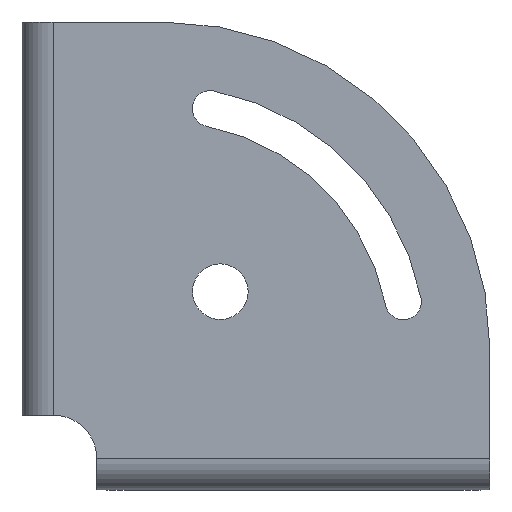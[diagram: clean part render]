
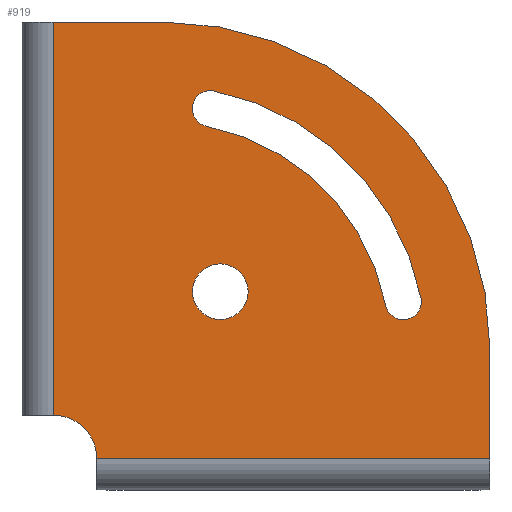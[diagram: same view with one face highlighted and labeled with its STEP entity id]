
A CAD part, front view. The second image highlights one B-rep face of the part: STEP entity #919.
In plain terms, the highlighted planar face has unit normal (0, -1, 0).
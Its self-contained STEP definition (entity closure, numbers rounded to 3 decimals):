
#14 = CIRCLE ( 'NONE', #794, 8. ) ;
#37 = EDGE_CURVE ( 'NONE', #355, #1103, #796, .T. ) ;
#38 = CIRCLE ( 'NONE', #1136, 41.7 ) ;
#39 = CARTESIAN_POINT ( 'NONE',  ( 33.307, -3., 30.607 ) ) ;
#40 = CARTESIAN_POINT ( 'NONE',  ( 70.072, -3., 29.424 ) ) ;
#50 = PLANE ( 'NONE',  #648 ) ;
#65 = VECTOR ( 'NONE', #508, 1000. ) ;
#70 = DIRECTION ( 'NONE',  ( -1., 0., 0. ) ) ;
#80 = DIRECTION ( 'NONE',  ( 0., -1., 0. ) ) ;
#96 = DIRECTION ( 'NONE',  ( 0., 1., 0. ) ) ;
#98 = CARTESIAN_POINT ( 'NONE',  ( 82.7, -3., 0. ) ) ;
#125 = DIRECTION ( 'NONE',  ( 0., 0., 1. ) ) ;
#148 = DIRECTION ( 'NONE',  ( 0., -1., 0. ) ) ;
#166 = CARTESIAN_POINT ( 'NONE',  ( 2.7, -3., 80. ) ) ;
#193 = VERTEX_POINT ( 'NONE', #40 ) ;
#208 = ORIENTED_EDGE ( 'NONE', *, *, #1285, .T. ) ;
#239 = CIRCLE ( 'NONE', #305, 5.1 ) ;
#250 = EDGE_CURVE ( 'NONE', #193, #1042, #978, .T. ) ;
#251 = CARTESIAN_POINT ( 'NONE',  ( 22.7, -3., 20. ) ) ;
#305 = AXIS2_PLACEMENT_3D ( 'NONE', #477, #1199, #585 ) ;
#309 = VERTEX_POINT ( 'NONE', #848 ) ;
#316 = VERTEX_POINT ( 'NONE', #540 ) ;
#329 = DIRECTION ( 'NONE',  ( 0., 1., 0. ) ) ;
#344 = LINE ( 'NONE', #1019, #65 ) ;
#349 = DIRECTION ( 'NONE',  ( 0., 0., -1. ) ) ;
#350 = VERTEX_POINT ( 'NONE', #166 ) ;
#355 = VERTEX_POINT ( 'NONE', #1120 ) ;
#359 = DIRECTION ( 'NONE',  ( 0., 0., 1. ) ) ;
#413 = VECTOR ( 'NONE', #349, 1000. ) ;
#442 = EDGE_CURVE ( 'NONE', #1075, #193, #671, .T. ) ;
#444 = CIRCLE ( 'NONE', #1044, 5.1 ) ;
#455 = ORIENTED_EDGE ( 'NONE', *, *, #724, .T. ) ;
#459 = FACE_OUTER_BOUND ( 'NONE', #590, .T. ) ;
#477 = CARTESIAN_POINT ( 'NONE',  ( 33.307, -3., 30.607 ) ) ;
#478 = ORIENTED_EDGE ( 'NONE', *, *, #442, .T. ) ;
#490 = CARTESIAN_POINT ( 'NONE',  ( 66.835, -3., 28.78 ) ) ;
#495 = ORIENTED_EDGE ( 'NONE', *, *, #747, .T. ) ;
#500 = FACE_BOUND ( 'NONE', #728, .T. ) ;
#501 = DIRECTION ( 'NONE',  ( 0., -1., 0. ) ) ;
#504 = CARTESIAN_POINT ( 'NONE',  ( 2.7, -3., 8. ) ) ;
#507 = ORIENTED_EDGE ( 'NONE', *, *, #37, .T. ) ;
#508 = DIRECTION ( 'NONE',  ( 1., 0., 0. ) ) ;
#540 = CARTESIAN_POINT ( 'NONE',  ( 22.7, -3., 80. ) ) ;
#545 = LINE ( 'NONE', #1015, #655 ) ;
#584 = CARTESIAN_POINT ( 'NONE',  ( 31.48, -3., 64.135 ) ) ;
#585 = DIRECTION ( 'NONE',  ( 0., 0., 1. ) ) ;
#590 = EDGE_LOOP ( 'NONE', ( #683, #1111, #805, #455, #495, #1266 ) ) ;
#594 = DIRECTION ( 'NONE',  ( 0., 0., 1. ) ) ;
#617 = CARTESIAN_POINT ( 'NONE',  ( 33.307, -3., 35.707 ) ) ;
#621 = AXIS2_PLACEMENT_3D ( 'NONE', #960, #329, #1062 ) ;
#622 = ORIENTED_EDGE ( 'NONE', *, *, #1089, .T. ) ;
#646 = ORIENTED_EDGE ( 'NONE', *, *, #1242, .T. ) ;
#648 = AXIS2_PLACEMENT_3D ( 'NONE', #789, #148, #895 ) ;
#649 = LINE ( 'NONE', #98, #1198 ) ;
#655 = VECTOR ( 'NONE', #70, 1000. ) ;
#671 = CIRCLE ( 'NONE', #1033, 48.3 ) ;
#682 = DIRECTION ( 'NONE',  ( 0., 0., 1. ) ) ;
#683 = ORIENTED_EDGE ( 'NONE', *, *, #958, .T. ) ;
#703 = VERTEX_POINT ( 'NONE', #504 ) ;
#719 = CARTESIAN_POINT ( 'NONE',  ( 22.7, -3., 20. ) ) ;
#724 = EDGE_CURVE ( 'NONE', #309, #316, #819, .T. ) ;
#728 = EDGE_LOOP ( 'NONE', ( #507, #208, #478, #1346, #622 ) ) ;
#733 = CARTESIAN_POINT ( 'NONE',  ( 2.7, -3., 0. ) ) ;
#747 = EDGE_CURVE ( 'NONE', #316, #350, #545, .T. ) ;
#758 = ORIENTED_EDGE ( 'NONE', *, *, #894, .T. ) ;
#771 = DIRECTION ( 'NONE',  ( 0., 1., 0. ) ) ;
#789 = CARTESIAN_POINT ( 'NONE',  ( 22.7, -3., 20. ) ) ;
#794 = AXIS2_PLACEMENT_3D ( 'NONE', #733, #96, #843 ) ;
#796 = CIRCLE ( 'NONE', #621, 3.3 ) ;
#805 = ORIENTED_EDGE ( 'NONE', *, *, #977, .T. ) ;
#819 = CIRCLE ( 'NONE', #1081, 60. ) ;
#826 = DIRECTION ( 'NONE',  ( 0., 0., -1. ) ) ;
#840 = VERTEX_POINT ( 'NONE', #1319 ) ;
#843 = DIRECTION ( 'NONE',  ( 0., 0., 1. ) ) ;
#848 = CARTESIAN_POINT ( 'NONE',  ( 82.7, -3., 20. ) ) ;
#850 = DIRECTION ( 'NONE',  ( 0., 0., 1. ) ) ;
#894 = EDGE_CURVE ( 'NONE', #1305, #1095, #239, .T. ) ;
#895 = DIRECTION ( 'NONE',  ( 0., 0., -1. ) ) ;
#901 = CARTESIAN_POINT ( 'NONE',  ( 33.307, -3., 25.507 ) ) ;
#913 = CARTESIAN_POINT ( 'NONE',  ( 82.7, -3., 0. ) ) ;
#919 = ADVANCED_FACE ( 'NONE', ( #972, #459, #500 ), #50, .T. ) ;
#942 = CIRCLE ( 'NONE', #996, 3.3 ) ;
#951 = CARTESIAN_POINT ( 'NONE',  ( 63.599, -3., 28.136 ) ) ;
#958 = EDGE_CURVE ( 'NONE', #703, #840, #14, .T. ) ;
#960 = CARTESIAN_POINT ( 'NONE',  ( 31.48, -3., 64.135 ) ) ;
#962 = VERTEX_POINT ( 'NONE', #913 ) ;
#972 = FACE_BOUND ( 'NONE', #1037, .T. ) ;
#977 = EDGE_CURVE ( 'NONE', #962, #309, #649, .T. ) ;
#978 = CIRCLE ( 'NONE', #1018, 3.3 ) ;
#984 = DIRECTION ( 'NONE',  ( 0., 1., 0. ) ) ;
#996 = AXIS2_PLACEMENT_3D ( 'NONE', #584, #1310, #682 ) ;
#1015 = CARTESIAN_POINT ( 'NONE',  ( 22.7, -3., 80. ) ) ;
#1018 = AXIS2_PLACEMENT_3D ( 'NONE', #490, #1211, #594 ) ;
#1019 = CARTESIAN_POINT ( 'NONE',  ( 2.7, -3., 0. ) ) ;
#1033 = AXIS2_PLACEMENT_3D ( 'NONE', #251, #984, #359 ) ;
#1037 = EDGE_LOOP ( 'NONE', ( #646, #758 ) ) ;
#1042 = VERTEX_POINT ( 'NONE', #951 ) ;
#1044 = AXIS2_PLACEMENT_3D ( 'NONE', #39, #771, #125 ) ;
#1062 = DIRECTION ( 'NONE',  ( 0., 0., 1. ) ) ;
#1069 = EDGE_CURVE ( 'NONE', #840, #962, #344, .T. ) ;
#1075 = VERTEX_POINT ( 'NONE', #1127 ) ;
#1081 = AXIS2_PLACEMENT_3D ( 'NONE', #1124, #501, #1222 ) ;
#1085 = CARTESIAN_POINT ( 'NONE',  ( 2.7, -3., 80. ) ) ;
#1089 = EDGE_CURVE ( 'NONE', #1042, #355, #38, .T. ) ;
#1095 = VERTEX_POINT ( 'NONE', #617 ) ;
#1103 = VERTEX_POINT ( 'NONE', #1240 ) ;
#1111 = ORIENTED_EDGE ( 'NONE', *, *, #1069, .T. ) ;
#1120 = CARTESIAN_POINT ( 'NONE',  ( 30.836, -3., 60.899 ) ) ;
#1124 = CARTESIAN_POINT ( 'NONE',  ( 22.7, -3., 20. ) ) ;
#1127 = CARTESIAN_POINT ( 'NONE',  ( 32.124, -3., 67.372 ) ) ;
#1136 = AXIS2_PLACEMENT_3D ( 'NONE', #719, #80, #826 ) ;
#1198 = VECTOR ( 'NONE', #850, 1000. ) ;
#1199 = DIRECTION ( 'NONE',  ( 0., 1., 0. ) ) ;
#1211 = DIRECTION ( 'NONE',  ( 0., 1., 0. ) ) ;
#1222 = DIRECTION ( 'NONE',  ( 0., 0., -1. ) ) ;
#1240 = CARTESIAN_POINT ( 'NONE',  ( 31.48, -3., 67.435 ) ) ;
#1242 = EDGE_CURVE ( 'NONE', #1095, #1305, #444, .T. ) ;
#1246 = LINE ( 'NONE', #1085, #413 ) ;
#1266 = ORIENTED_EDGE ( 'NONE', *, *, #1269, .T. ) ;
#1269 = EDGE_CURVE ( 'NONE', #350, #703, #1246, .T. ) ;
#1285 = EDGE_CURVE ( 'NONE', #1103, #1075, #942, .T. ) ;
#1305 = VERTEX_POINT ( 'NONE', #901 ) ;
#1310 = DIRECTION ( 'NONE',  ( 0., 1., 0. ) ) ;
#1319 = CARTESIAN_POINT ( 'NONE',  ( 10.7, -3., 0. ) ) ;
#1346 = ORIENTED_EDGE ( 'NONE', *, *, #250, .T. ) ;
